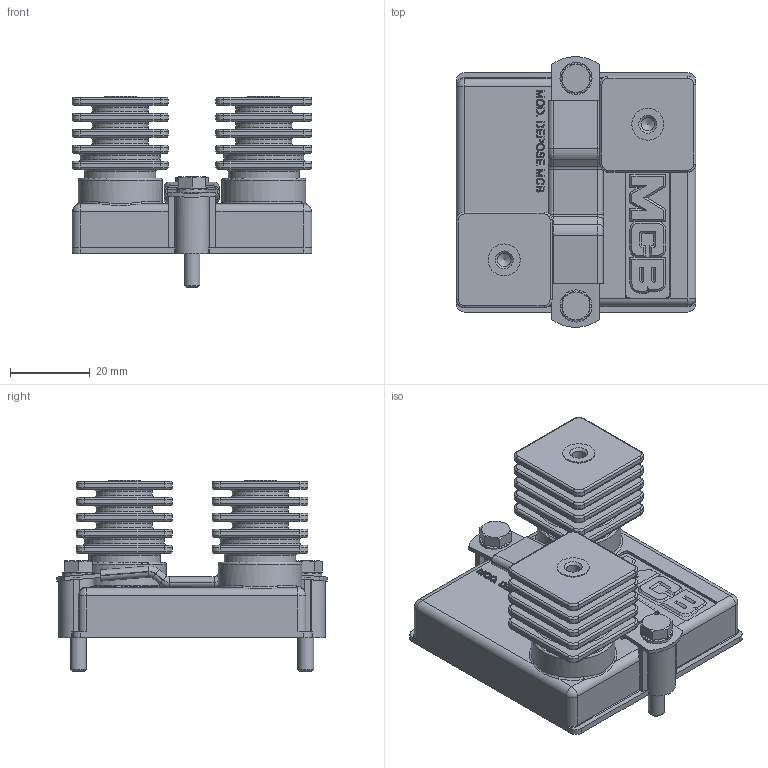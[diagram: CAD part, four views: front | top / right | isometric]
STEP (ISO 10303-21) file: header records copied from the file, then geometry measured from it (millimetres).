
FILE_DESCRIPTION(/* description */ (' '),/* implementation_level */ '2;1');
FILE_NAME(/* name */ '482-023',/* time_stamp */ '2017-09-18T14:40:19+02:00',/* author */ ('VISHAY MCB INDUSTRIE'),/* organization */ (' '),/* preprocessor_version */ 'ST-DEVELOPER v16.7',/* originating_system */ 'DEX',/* authorisation */ $);
FILE_SCHEMA (('AUTOMOTIVE_DESIGN {1 0 10303 214 3 1 1}'));
Length unit declared in the file: millimetre
Products named in the file (8): 482-023; 284003_0; Rondelle CS M4 etroite_0; 277276; 211604_Bride position travail; 277276_737986_gaine bride travail; 277276_737987_gaine bride travail; Vis HM 4x25_0
Assembly tree (9 placements, depth 3):
  482-023
    284003_0
    Rondelle CS M4 etroite_0  x2
    277276
      211604_Bride position travail
      277276_737986_gaine bride travail
      277276_737987_gaine bride travail
    Vis HM 4x25_0  x2
Bounding box: 60 x 67.82 x 48 mm (x, y, z)
Volume: 66229.2 mm3; surface area: 33129.2 mm2
Topology: 8 solids, 11 shells, 1060 faces, 2639 edges, 1658 vertices
Faces by surface type: plane 442, cylinder 284, torus 148, bspline 114, cone 68, sphere 4
Full cylindrical faces by diameter (mm): 3.3 x2, 4 x4, 4.4 x2, 4.5 x2, 6 x2, 8 x6, 13 x2, 14 x6, 15 x2, 17.9 x2, 20 x2, 20.999 x2
Entity records: 36582 total; most frequent: CARTESIAN_POINT 7746, ORIENTED_EDGE 4708, DIRECTION 4671, EDGE_CURVE 2354, AXIS2_PLACEMENT_3D 1715, VERTEX_POINT 1515, LINE 1241, VECTOR 1241
